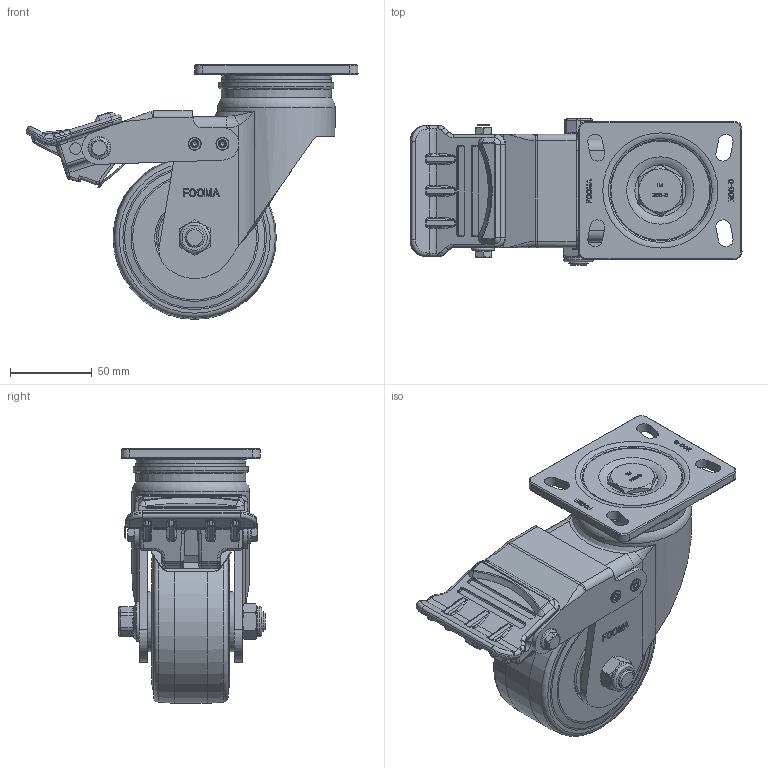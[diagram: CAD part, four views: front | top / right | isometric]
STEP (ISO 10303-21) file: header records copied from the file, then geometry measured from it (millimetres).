
FILE_DESCRIPTION(/* description */ (''),/* implementation_level */ '2;1');
FILE_NAME(/* name */ '\\192.168.10.38\지덕공유\1.기술연구소\1.도면\제품도면\1.양산품\10.PH-SERIES-OK\작성중\PH,PHS,GH-100-BSF _ 브레이크 부분 변경(130브라켓)관련 도면 모음(2D, 3D)\추가 전\PH-100-BSF-MCD-R01.stp',/* time_stamp */ '2023-06-30T16:37:55+09:00',/* author */ ('admin'),/* organization */ (''),/* preprocessor_version */ 'ST-DEVELOPER v18.1',/* originating_system */ 'Autodesk Inventor 2021',/* authorisation */ '');
FILE_SCHEMA (('AUTOMOTIVE_DESIGN { 1 0 10303 214 3 1 1 }'));
Length unit declared in the file: millimetre
Products named in the file (1): PH-100-BSF-MCD-R01_Shrinkwrap_1
Bounding box: 203.29 x 89.5 x 156 mm (x, y, z)
Volume: 747556.7 mm3; surface area: 135762.7 mm2
Topology: 1 solids, 5 shells, 1658 faces, 4387 edges, 2769 vertices
Faces by surface type: plane 852, cylinder 346, bspline 251, torus 119, cone 60, sphere 30
Full cylindrical faces by diameter (mm): 4 x4, 4.917 x1, 6 x4, 6.1 x8, 6.5 x2, 7 x2, 8 x4, 9.8 x1, 12 x2, 14.5 x1, 15 x1, 15.2 x2, 18 x1, 18.5 x1, 35 x1, 37 x2, 38 x1, 38.36 x4, 47 x4, 54.004 x1, 67.006 x2, 67.2 x1, 71.999 x1, 100 x1
Entity records: 56982 total; most frequent: CARTESIAN_POINT 15186, ORIENTED_EDGE 8722, DIRECTION 7783, EDGE_CURVE 4361, VERTEX_POINT 2769, LINE 2715, VECTOR 2715, AXIS2_PLACEMENT_3D 2534
